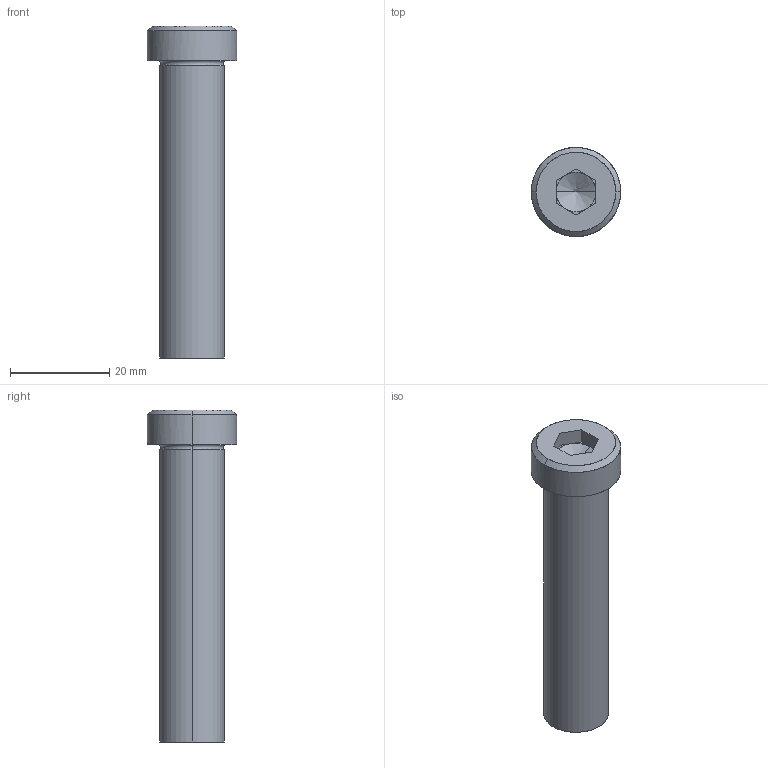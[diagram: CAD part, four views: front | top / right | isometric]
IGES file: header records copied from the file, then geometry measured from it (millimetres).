
Global section: file name: E:\UnigraphicsGraphicData\MISUMI_PRESS-PARTS\IGES\3d_sbtcn13-60_05152_r00.igs; native system: NX V5.0; preprocessor: UGS NX IGES V5.0; author: MISUMI; date: 20110105.162455; units: millimetre
Bounding box: 18 x 18 x 67 mm (x, y, z)
Surface area: 3837.8 mm2 (no closed solid volume)
Topology: 0 solids, 0 shells, 34 faces, 186 edges, 182 vertices
Faces by surface type: bspline 34
